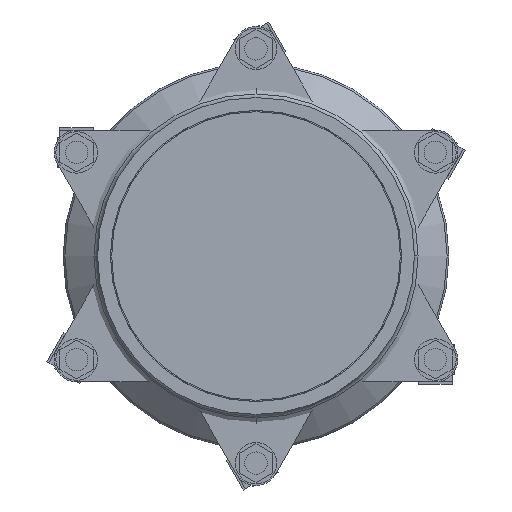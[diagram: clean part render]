
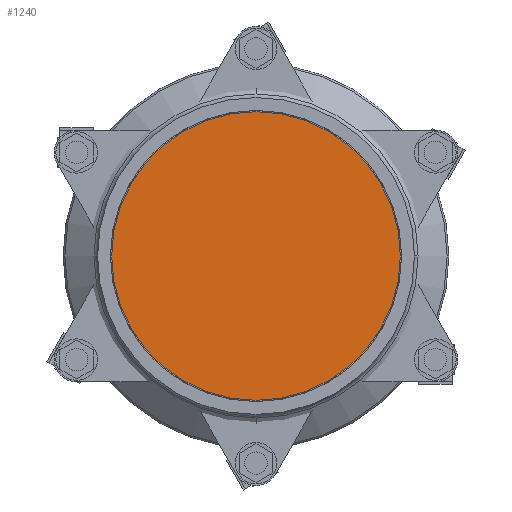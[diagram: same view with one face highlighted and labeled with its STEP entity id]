
A CAD part, left-side view. The second image highlights one B-rep face of the part: STEP entity #1240.
In plain terms, the highlighted planar face has unit normal (-1, 0, 0).
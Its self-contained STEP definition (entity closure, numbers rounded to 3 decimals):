
#1240=ADVANCED_FACE('',(#2524),#2525,.T.);
#2524=FACE_OUTER_BOUND('',#4090,.T.);
#2525=PLANE('',#4091);
#4090=EDGE_LOOP('',(#6664,#6665));
#4091=AXIS2_PLACEMENT_3D('',#6666,#6667,#6668);
#6664=ORIENTED_EDGE('',*,*,#9360,.T.);
#6665=ORIENTED_EDGE('',*,*,#8494,.T.);
#6666=CARTESIAN_POINT('',(-95.5,0.0,0.0));
#6667=DIRECTION('',(-1.0,0.0,0.));
#6668=DIRECTION('',(0.,0.0,1.0));
#8494=EDGE_CURVE('',#9951,#9948,#9952,.T.);
#9360=EDGE_CURVE('',#9948,#9951,#11365,.T.);
#9948=VERTEX_POINT('',#12065);
#9951=VERTEX_POINT('',#12069);
#9952=CIRCLE('',#12070,141.5);
#11365=CIRCLE('',#13943,141.5);
#12065=CARTESIAN_POINT('',(-95.5,0.0,-141.5));
#12069=CARTESIAN_POINT('',(-95.5,0.,141.5));
#12070=AXIS2_PLACEMENT_3D('',#14864,#14865,#14866);
#13943=AXIS2_PLACEMENT_3D('',#15981,#15982,#15983);
#14864=CARTESIAN_POINT('',(-95.5,0.0,0.0));
#14865=DIRECTION('',(-1.0,0.0,0.));
#14866=DIRECTION('',(0.,0.0,-1.0));
#15981=CARTESIAN_POINT('',(-95.5,0.0,0.0));
#15982=DIRECTION('',(-1.0,0.0,0.));
#15983=DIRECTION('',(0.,0.0,-1.0));
